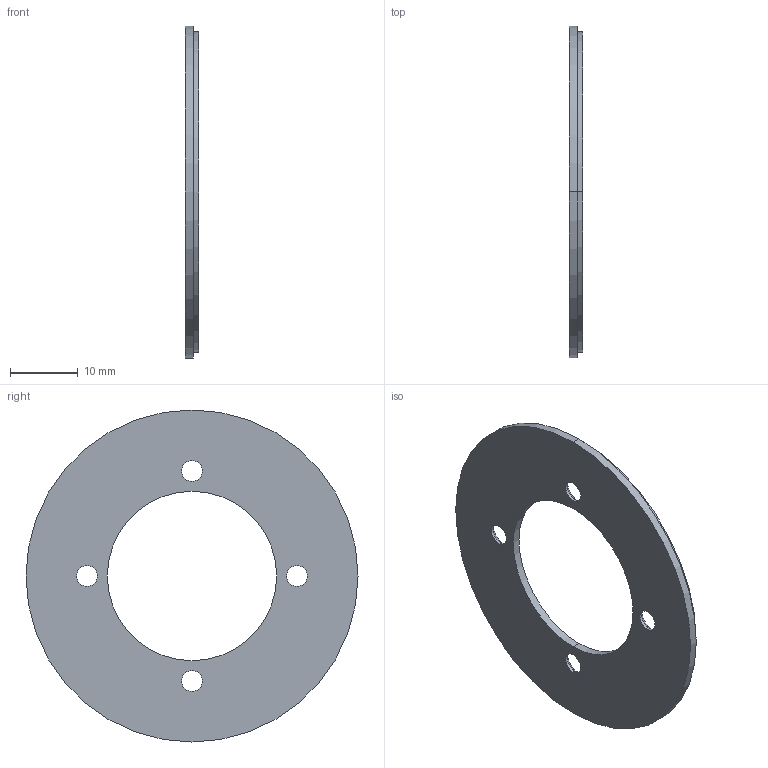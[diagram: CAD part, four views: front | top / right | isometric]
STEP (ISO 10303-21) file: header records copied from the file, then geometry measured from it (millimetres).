
FILE_DESCRIPTION (( 'STEP AP214' ), '1' );
FILE_NAME ('MRA049BC025DSE00.STEP', '2019-07-05T12:17:50', ( '' ), ( '' ), 'SwSTEP 2.0', 'SolidWorks 2016', '' );
FILE_SCHEMA (( 'AUTOMOTIVE_DESIGN' ));
Length unit declared in the file: millimetre
Products named in the file (3): MN01056_Prirobnica_49_25x1.2, štancana_gravura; MN00438_Elastoferit_OD49-ID37x1; MRA049BC025DSE00
Assembly tree (2 placements, depth 2):
  MRA049BC025DSE00
    MN01056_Prirobnica_49_25x1.2, štancana_gravura
    MN00438_Elastoferit_OD49-ID37x1
Bounding box: 2 x 49 x 49 mm (x, y, z)
Volume: 2138.4 mm3; surface area: 4547.3 mm2
Topology: 2 solids, 2 shells, 36 faces, 82 edges, 52 vertices
Faces by surface type: cylinder 16, plane 12, cone 8
Entity records: 1156 total; most frequent: DIRECTION 204, CARTESIAN_POINT 175, ORIENTED_EDGE 164, EDGE_CURVE 82, AXIS2_PLACEMENT_3D 81, VERTEX_POINT 52, EDGE_LOOP 50, LINE 42
